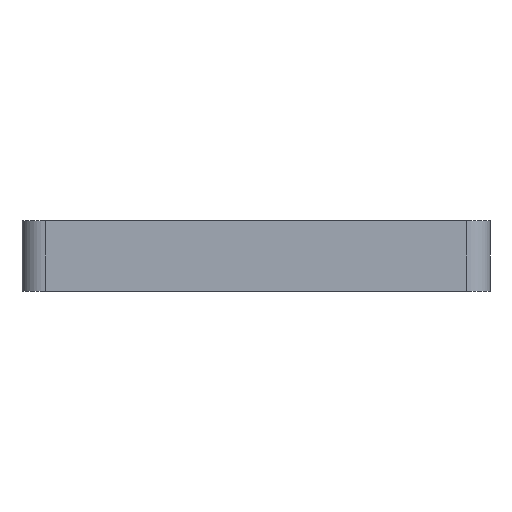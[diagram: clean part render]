
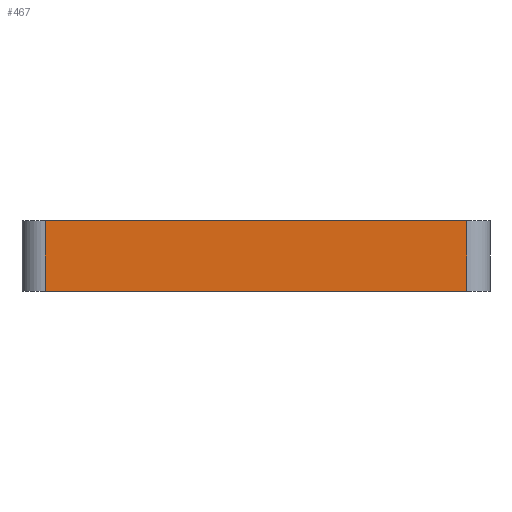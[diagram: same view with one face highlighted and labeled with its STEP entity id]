
A CAD part, left-side view. The second image highlights one B-rep face of the part: STEP entity #467.
In plain terms, the highlighted planar face has unit normal (-1, 0, 0).
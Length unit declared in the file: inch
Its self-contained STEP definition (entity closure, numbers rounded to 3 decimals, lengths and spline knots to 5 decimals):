
#172 = VERTEX_POINT ( 'NONE', #2500 ) ;
#184 = CARTESIAN_POINT ( 'NONE',  ( -2., -1.125, 0.1875 ) ) ;
#234 = LINE ( 'NONE', #184, #883 ) ;
#467 = ADVANCED_FACE ( 'NONE', ( #1156 ), #849, .F. ) ;
#508 = CARTESIAN_POINT ( 'NONE',  ( -2., -1.125, 0.1875 ) ) ;
#547 = LINE ( 'NONE', #2590, #2469 ) ;
#592 = EDGE_CURVE ( 'NONE', #1356, #2339, #1413, .T. ) ;
#816 = EDGE_LOOP ( 'NONE', ( #1407, #2245, #1999, #2603 ) ) ;
#849 = PLANE ( 'NONE',  #973 ) ;
#883 = VECTOR ( 'NONE', #987, 39.37008 ) ;
#973 = AXIS2_PLACEMENT_3D ( 'NONE', #2222, #1660, #1966 ) ;
#987 = DIRECTION ( 'NONE',  ( 0., 0., 1. ) ) ;
#1156 = FACE_OUTER_BOUND ( 'NONE', #816, .T. ) ;
#1242 = DIRECTION ( 'NONE',  ( 0., -1., 0. ) ) ;
#1270 = EDGE_CURVE ( 'NONE', #1356, #1770, #547, .T. ) ;
#1300 = DIRECTION ( 'NONE',  ( 0., -1., 0. ) ) ;
#1356 = VERTEX_POINT ( 'NONE', #1792 ) ;
#1407 = ORIENTED_EDGE ( 'NONE', *, *, #1270, .F. ) ;
#1413 = LINE ( 'NONE', #2470, #3124 ) ;
#1660 = DIRECTION ( 'NONE',  ( 1., 0., 0. ) ) ;
#1770 = VERTEX_POINT ( 'NONE', #508 ) ;
#1792 = CARTESIAN_POINT ( 'NONE',  ( -2., 1.125, 0.1875 ) ) ;
#1897 = DIRECTION ( 'NONE',  ( 0., 0., -1. ) ) ;
#1949 = CARTESIAN_POINT ( 'NONE',  ( -2., 1.125, -0.1875 ) ) ;
#1966 = DIRECTION ( 'NONE',  ( 0., 0., -1. ) ) ;
#1999 = ORIENTED_EDGE ( 'NONE', *, *, #2896, .T. ) ;
#2222 = CARTESIAN_POINT ( 'NONE',  ( -2., 1.25, 0.1875 ) ) ;
#2245 = ORIENTED_EDGE ( 'NONE', *, *, #592, .T. ) ;
#2339 = VERTEX_POINT ( 'NONE', #1949 ) ;
#2469 = VECTOR ( 'NONE', #1300, 39.37008 ) ;
#2470 = CARTESIAN_POINT ( 'NONE',  ( -2., 1.125, 0.1875 ) ) ;
#2482 = VECTOR ( 'NONE', #1242, 39.37008 ) ;
#2500 = CARTESIAN_POINT ( 'NONE',  ( -2., -1.125, -0.1875 ) ) ;
#2502 = EDGE_CURVE ( 'NONE', #172, #1770, #234, .T. ) ;
#2590 = CARTESIAN_POINT ( 'NONE',  ( -2., 1.25, 0.1875 ) ) ;
#2603 = ORIENTED_EDGE ( 'NONE', *, *, #2502, .T. ) ;
#2609 = CARTESIAN_POINT ( 'NONE',  ( -2., 1.25, -0.1875 ) ) ;
#2896 = EDGE_CURVE ( 'NONE', #2339, #172, #3118, .T. ) ;
#3118 = LINE ( 'NONE', #2609, #2482 ) ;
#3124 = VECTOR ( 'NONE', #1897, 39.37008 ) ;
